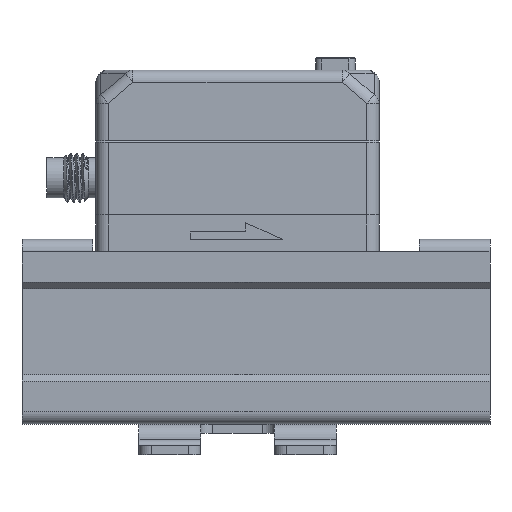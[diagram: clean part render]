
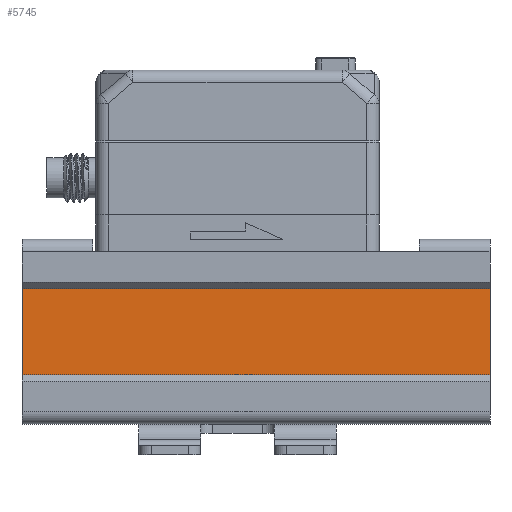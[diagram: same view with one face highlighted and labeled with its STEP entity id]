
A CAD part, front view. The second image highlights one B-rep face of the part: STEP entity #5745.
In plain terms, the highlighted planar face has unit normal (0, -1, 0).
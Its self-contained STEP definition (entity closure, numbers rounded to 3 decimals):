
#4674=FACE_OUTER_BOUND('',#10622,.T.);
#5745=ADVANCED_FACE('',(#4674),#6291,.F.);
#6291=PLANE('',#20122);
#7584=LINE('',#32139,#9141);
#7597=LINE('',#32168,#9154);
#7602=LINE('',#32184,#9159);
#7603=LINE('',#32185,#9160);
#9141=VECTOR('',#23623,1.);
#9154=VECTOR('',#23642,1.);
#9159=VECTOR('',#23663,1.);
#9160=VECTOR('',#23664,1.);
#10622=EDGE_LOOP('',(#14615,#14616,#14617,#14618));
#14615=ORIENTED_EDGE('',*,*,#18506,.T.);
#14616=ORIENTED_EDGE('',*,*,#18515,.F.);
#14617=ORIENTED_EDGE('',*,*,#18493,.T.);
#14618=ORIENTED_EDGE('',*,*,#18516,.T.);
#16397=VERTEX_POINT('',#32140);
#16398=VERTEX_POINT('',#32141);
#16409=VERTEX_POINT('',#32167);
#16410=VERTEX_POINT('',#32169);
#18493=EDGE_CURVE('',#16397,#16398,#7584,.T.);
#18506=EDGE_CURVE('',#16410,#16409,#7597,.T.);
#18515=EDGE_CURVE('',#16397,#16409,#7602,.T.);
#18516=EDGE_CURVE('',#16398,#16410,#7603,.T.);
#20122=AXIS2_PLACEMENT_3D('',#32186,#23665,#23666);
#23623=DIRECTION('',(-1.,0.,0.));
#23642=DIRECTION('',(1.,0.,0.));
#23663=DIRECTION('',(0.,0.,-1.));
#23664=DIRECTION('',(0.,0.,-1.));
#23665=DIRECTION('',(0.,1.,0.));
#23666=DIRECTION('',(0.,0.,-1.));
#32139=CARTESIAN_POINT('',(0.,-89.,22.));
#32140=CARTESIAN_POINT('',(76.,-89.,22.));
#32141=CARTESIAN_POINT('',(0.,-89.,22.));
#32167=CARTESIAN_POINT('',(76.,-89.,8.));
#32168=CARTESIAN_POINT('',(0.,-89.,8.));
#32169=CARTESIAN_POINT('',(0.,-89.,8.));
#32184=CARTESIAN_POINT('',(76.,-89.,30.));
#32185=CARTESIAN_POINT('',(0.,-89.,30.));
#32186=CARTESIAN_POINT('',(0.,-89.,30.));
